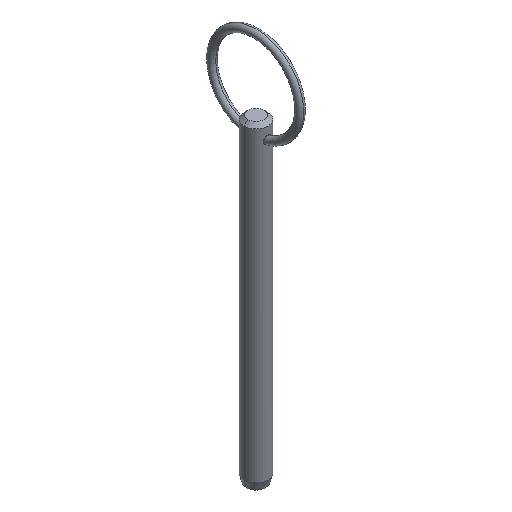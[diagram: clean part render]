
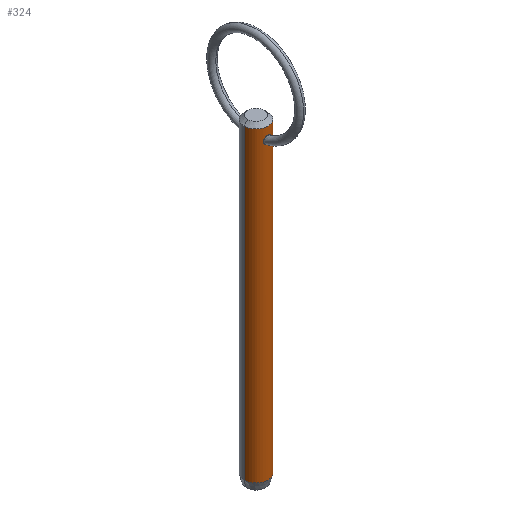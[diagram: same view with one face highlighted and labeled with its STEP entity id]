
A CAD part, isometric view. The second image highlights one B-rep face of the part: STEP entity #324.
In plain terms, the highlighted cylindrical face has radius 3.175 mm (diameter 6.35 mm), a partial arc.
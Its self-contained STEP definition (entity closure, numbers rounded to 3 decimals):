
#13 = CARTESIAN_POINT ( 'NONE',  ( -0.815, -3.07, 71.895 ) ) ;
#14 = AXIS2_PLACEMENT_3D ( 'NONE', #243, #133, #276 ) ;
#15 = CARTESIAN_POINT ( 'NONE',  ( 3.175, 0., 75.68 ) ) ;
#21 = VERTEX_POINT ( 'NONE', #158 ) ;
#25 = CARTESIAN_POINT ( 'NONE',  ( 0.268, -3.166, 71.529 ) ) ;
#29 = VERTEX_POINT ( 'NONE', #15 ) ;
#38 = DIRECTION ( 'NONE',  ( 0., 0., 1. ) ) ;
#45 = EDGE_CURVE ( 'NONE', #471, #81, #239, .T. ) ;
#50 = ORIENTED_EDGE ( 'NONE', *, *, #381, .F. ) ;
#57 = CIRCLE ( 'NONE', #85, 3.175 ) ;
#62 = CARTESIAN_POINT ( 'NONE',  ( 0.617, -3.116, 73.351 ) ) ;
#63 = FACE_BOUND ( 'NONE', #409, .T. ) ;
#64 = CARTESIAN_POINT ( 'NONE',  ( 0.134, -3.175, 71.503 ) ) ;
#80 = VERTEX_POINT ( 'NONE', #233 ) ;
#81 = VERTEX_POINT ( 'NONE', #389 ) ;
#85 = AXIS2_PLACEMENT_3D ( 'NONE', #148, #38, #337 ) ;
#86 = CARTESIAN_POINT ( 'NONE',  ( -0.269, -3.166, 71.529 ) ) ;
#105 = CARTESIAN_POINT ( 'NONE',  ( 0., -3.175, 71.503 ) ) ;
#107 = ORIENTED_EDGE ( 'NONE', *, *, #391, .T. ) ;
#115 = CARTESIAN_POINT ( 'NONE',  ( -0.629, -3.114, 71.705 ) ) ;
#120 = CARTESIAN_POINT ( 'NONE',  ( -0.067, -3.175, 73.582 ) ) ;
#133 = DIRECTION ( 'NONE',  ( 0., 0., -1. ) ) ;
#134 = CARTESIAN_POINT ( 'NONE',  ( 0., 0., 71.1 ) ) ;
#138 = CARTESIAN_POINT ( 'NONE',  ( 0.888, -3.049, 72.009 ) ) ;
#148 = CARTESIAN_POINT ( 'NONE',  ( 0., 0., -5.92 ) ) ;
#151 = EDGE_CURVE ( 'NONE', #29, #266, #220, .T. ) ;
#158 = CARTESIAN_POINT ( 'NONE',  ( -3.175, 0., -5.92 ) ) ;
#160 = CARTESIAN_POINT ( 'NONE',  ( -0.264, -3.165, 73.544 ) ) ;
#164 = CARTESIAN_POINT ( 'NONE',  ( -0.133, -3.173, 73.574 ) ) ;
#176 = CARTESIAN_POINT ( 'NONE',  ( 0.815, -3.07, 71.895 ) ) ;
#179 = CARTESIAN_POINT ( 'NONE',  ( 0.134, -3.175, 73.582 ) ) ;
#181 = CARTESIAN_POINT ( 'NONE',  ( -3.175, 0., 75.68 ) ) ;
#199 = CARTESIAN_POINT ( 'NONE',  ( -0.888, -3.049, 72.009 ) ) ;
#208 = FACE_OUTER_BOUND ( 'NONE', #474, .T. ) ;
#212 = CARTESIAN_POINT ( 'NONE',  ( 0.982, -3.02, 72.258 ) ) ;
#214 = CARTESIAN_POINT ( 'NONE',  ( 0.51, -3.136, 73.434 ) ) ;
#220 = CIRCLE ( 'NONE', #14, 3.175 ) ;
#227 = LINE ( 'NONE', #477, #449 ) ;
#228 = CARTESIAN_POINT ( 'NONE',  ( -0.328, -3.159, 73.521 ) ) ;
#233 = CARTESIAN_POINT ( 'NONE',  ( 3.175, 0., -5.92 ) ) ;
#239 = B_SPLINE_CURVE_WITH_KNOTS ( 'NONE', 3,
 ( #351, #460, #86, #390, #115, #13, #199, #465, #385, #270, #349, #387, #420, #228, #160, #164, #120, #467 ),
 .UNSPECIFIED., .F., .F.,
 ( 4, 2, 2, 2, 2, 2, 2, 2, 4 ),
 ( 0.006, 0.006, 0.007, 0.007, 0.008, 0.008, 0.009, 0.009, 0.009 ),
 .UNSPECIFIED. ) ;
#243 = CARTESIAN_POINT ( 'NONE',  ( 0., 0., 75.68 ) ) ;
#245 = CARTESIAN_POINT ( 'NONE',  ( 0.515, -3.135, 71.63 ) ) ;
#247 = EDGE_CURVE ( 'NONE', #266, #21, #450, .T. ) ;
#266 = VERTEX_POINT ( 'NONE', #181 ) ;
#270 = CARTESIAN_POINT ( 'NONE',  ( -0.991, -3.016, 72.796 ) ) ;
#276 = DIRECTION ( 'NONE',  ( 1., 0., 0. ) ) ;
#279 = ORIENTED_EDGE ( 'NONE', *, *, #151, .T. ) ;
#281 = DIRECTION ( 'NONE',  ( 0., 0., -1. ) ) ;
#284 = CARTESIAN_POINT ( 'NONE',  ( 0.628, -3.114, 71.704 ) ) ;
#323 = CARTESIAN_POINT ( 'NONE',  ( 0.884, -3.055, 73.057 ) ) ;
#324 = ADVANCED_FACE ( 'NONE', ( #208, #63 ), #333, .T. ) ;
#327 = CARTESIAN_POINT ( 'NONE',  ( 0., -3.175, 71.503 ) ) ;
#329 = AXIS2_PLACEMENT_3D ( 'NONE', #134, #483, #330 ) ;
#330 = DIRECTION ( 'NONE',  ( -1., 0., 0. ) ) ;
#333 = CYLINDRICAL_SURFACE ( 'NONE', #329, 3.175 ) ;
#334 = ORIENTED_EDGE ( 'NONE', *, *, #45, .T. ) ;
#337 = DIRECTION ( 'NONE',  ( -1., 0., 0. ) ) ;
#340 = VECTOR ( 'NONE', #441, 1000. ) ;
#349 = CARTESIAN_POINT ( 'NONE',  ( -0.882, -3.055, 73.06 ) ) ;
#351 = CARTESIAN_POINT ( 'NONE',  ( 0., -3.175, 71.503 ) ) ;
#368 = CARTESIAN_POINT ( 'NONE',  ( 0.992, -3.016, 72.794 ) ) ;
#375 = ORIENTED_EDGE ( 'NONE', *, *, #447, .T. ) ;
#381 = EDGE_CURVE ( 'NONE', #29, #80, #227, .T. ) ;
#385 = CARTESIAN_POINT ( 'NONE',  ( -1.004, -3.012, 72.395 ) ) ;
#387 = CARTESIAN_POINT ( 'NONE',  ( -0.615, -3.116, 73.353 ) ) ;
#389 = CARTESIAN_POINT ( 'NONE',  ( 0., -3.175, 73.582 ) ) ;
#390 = CARTESIAN_POINT ( 'NONE',  ( -0.516, -3.135, 71.631 ) ) ;
#391 = EDGE_CURVE ( 'NONE', #81, #471, #426, .T. ) ;
#401 = CARTESIAN_POINT ( 'NONE',  ( 1.004, -3.012, 72.393 ) ) ;
#402 = ORIENTED_EDGE ( 'NONE', *, *, #247, .T. ) ;
#409 = EDGE_LOOP ( 'NONE', ( #107, #334 ) ) ;
#420 = CARTESIAN_POINT ( 'NONE',  ( -0.508, -3.136, 73.435 ) ) ;
#426 = B_SPLINE_CURVE_WITH_KNOTS ( 'NONE', 3,
 ( #438, #179, #479, #214, #62, #323, #368, #401, #212, #138, #176, #284, #245, #25, #64, #327 ),
 .UNSPECIFIED., .F., .F.,
 ( 4, 2, 2, 2, 2, 2, 2, 4 ),
 ( 0.003, 0.003, 0.004, 0.004, 0.005, 0.005, 0.006, 0.006 ),
 .UNSPECIFIED. ) ;
#435 = CARTESIAN_POINT ( 'NONE',  ( -3.175, 0., 71.1 ) ) ;
#438 = CARTESIAN_POINT ( 'NONE',  ( 0., -3.175, 73.582 ) ) ;
#441 = DIRECTION ( 'NONE',  ( 0., 0., -1. ) ) ;
#447 = EDGE_CURVE ( 'NONE', #21, #80, #57, .T. ) ;
#449 = VECTOR ( 'NONE', #281, 1000. ) ;
#450 = LINE ( 'NONE', #435, #340 ) ;
#460 = CARTESIAN_POINT ( 'NONE',  ( -0.134, -3.175, 71.503 ) ) ;
#465 = CARTESIAN_POINT ( 'NONE',  ( -0.983, -3.02, 72.259 ) ) ;
#467 = CARTESIAN_POINT ( 'NONE',  ( 0., -3.175, 73.582 ) ) ;
#471 = VERTEX_POINT ( 'NONE', #105 ) ;
#474 = EDGE_LOOP ( 'NONE', ( #50, #279, #402, #375 ) ) ;
#477 = CARTESIAN_POINT ( 'NONE',  ( 3.175, 0., 71.1 ) ) ;
#479 = CARTESIAN_POINT ( 'NONE',  ( 0.269, -3.166, 73.55 ) ) ;
#483 = DIRECTION ( 'NONE',  ( 0., 0., -1. ) ) ;
